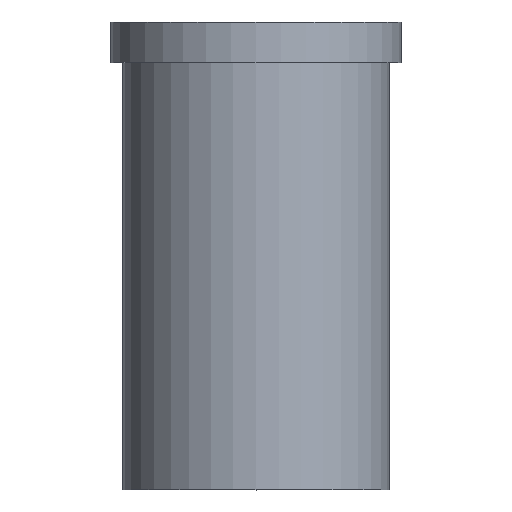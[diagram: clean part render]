
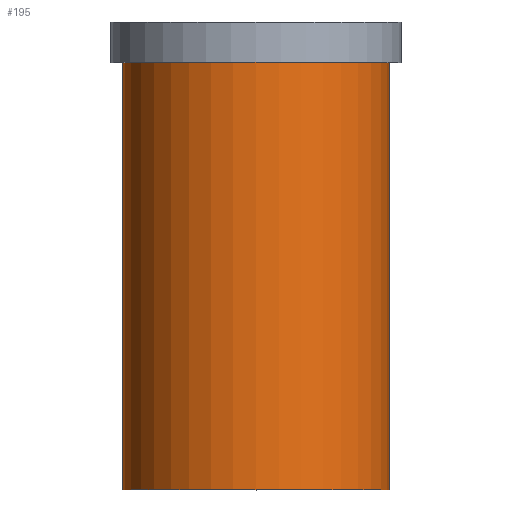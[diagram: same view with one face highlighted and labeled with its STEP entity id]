
A CAD part, top view. The second image highlights one B-rep face of the part: STEP entity #195.
In plain terms, the highlighted cylindrical face has radius 33 mm (diameter 66 mm), a full revolution.
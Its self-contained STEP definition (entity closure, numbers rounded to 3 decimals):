
#32=ORIENTED_EDGE('',*,*,#50,.T.);
#33=ORIENTED_EDGE('',*,*,#49,.F.);
#49=EDGE_CURVE('',#59,#59,#69,.T.);
#50=EDGE_CURVE('',#60,#60,#70,.T.);
#59=VERTEX_POINT('',#280);
#60=VERTEX_POINT('',#283);
#69=CIRCLE('',#213,33.);
#70=CIRCLE('',#215,33.);
#82=EDGE_LOOP('',(#32));
#83=EDGE_LOOP('',(#33));
#102=FACE_BOUND('',#82,.T.);
#103=FACE_BOUND('',#83,.T.);
#117=CYLINDRICAL_SURFACE('',#214,33.);
#195=ADVANCED_FACE('',(#102,#103),#117,.T.);
#213=AXIS2_PLACEMENT_3D('',#279,#241,#242);
#214=AXIS2_PLACEMENT_3D('',#281,#243,#244);
#215=AXIS2_PLACEMENT_3D('',#282,#245,#246);
#241=DIRECTION('',(0.,-1.,0.));
#242=DIRECTION('',(0.,0.,-1.));
#243=DIRECTION('',(0.,-1.,0.));
#244=DIRECTION('',(0.,0.,-1.));
#245=DIRECTION('',(0.,-1.,0.));
#246=DIRECTION('',(0.,0.,-1.));
#279=CARTESIAN_POINT('',(0.,0.,0.));
#280=CARTESIAN_POINT('',(0.,0.,-33.));
#281=CARTESIAN_POINT('',(0.,0.,0.));
#282=CARTESIAN_POINT('',(0.,106.,0.));
#283=CARTESIAN_POINT('',(0.,106.,-33.));
